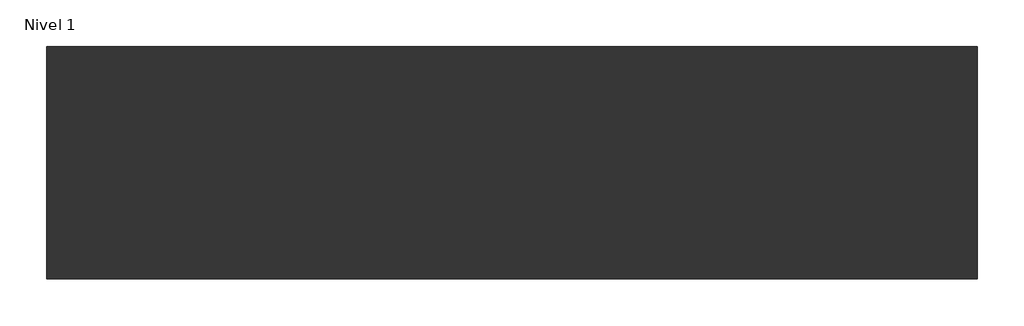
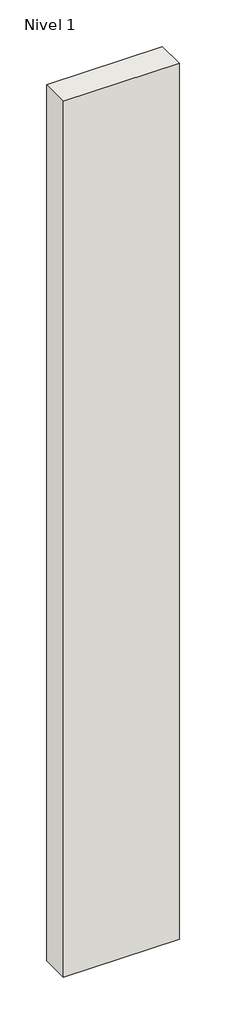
# One storey: 1 wall.
"""IFC4 building model written with IfcOpenShell, lengths in millimetres."""

import ifcopenshell
import ifcopenshell.guid

model = None  # the IFC model being written
_history = None  # IfcOwnerHistory: only IFC2X3 demands one
_inside = {}  # id of a spatial element -> (the spatial element, [elements in it])
_under = {}  # id of a project, library or spatial element -> (it, [spatial elements below it])
_declared = {}  # id of a project -> (the project, [libraries it declares])
_typed = {}  # id of a type object -> (the type object, [elements of that type])
_made_of = {}  # id of a material, layer set ... -> (it, [elements and type objects made of it])


def new_model(schema):
    """Start an empty IFC model of exactly this schema.

    Asked for "IFC4X3", IfcOpenShell would pick the latest addendum, in which some entities
    have other attributes; the version numbers below select the first issue.
    IFC2X3 requires an IfcOwnerHistory on every rooted entity: one is made here for all.
    """
    global model, _history
    if schema == "IFC4X3":
        model = ifcopenshell.file(schema_version=(4, 3, 0, 0))
    else:
        model = ifcopenshell.file(schema=schema)
    _inside.clear()
    _under.clear()
    _declared.clear()
    _typed.clear()
    _made_of.clear()
    _history = None
    if model.schema == "IFC2X3":
        org = make("IfcOrganization", Name="unknown")
        user = make(
            "IfcPersonAndOrganization",
            ThePerson=make("IfcPerson", FamilyName="unknown"),
            TheOrganization=org,
        )
        app = make(
            "IfcApplication",
            ApplicationDeveloper=org,
            Version="unknown",
            ApplicationFullName="unknown",
            ApplicationIdentifier="unknown",
        )
        _history = make(
            "IfcOwnerHistory",
            OwningUser=user,
            OwningApplication=app,
            ChangeAction="ADDED",
            CreationDate=0,
        )
    return model


def make(cls, **values):
    """One entity of the class cls with the attributes given. An attribute that is None is left unset."""
    return model.create_entity(
        cls, **{name: value for name, value in values.items() if value is not None}
    )


def rooted(cls, **values):
    """An entity with a GlobalId (a new one), such as an element, a storey or a relation."""
    return make(cls, GlobalId=ifcopenshell.guid.new(), OwnerHistory=_history, **values)


def si_unit(unit_type, name, prefix=None):
    """IfcSIUnit, for example si_unit("LENGTHUNIT", "METRE", prefix="MILLI")."""
    return make("IfcSIUnit", UnitType=unit_type, Prefix=prefix, Name=name)


def assignment(units):
    """IfcUnitAssignment: the units of a project."""
    return None if units is None else make("IfcUnitAssignment", Units=units)


def point(xyz):
    """IfcCartesianPoint."""
    return None if xyz is None else make("IfcCartesianPoint", Coordinates=xyz)


def direction(xyz):
    """IfcDirection."""
    return None if xyz is None else make("IfcDirection", DirectionRatios=xyz)


def frame(location, z_axis=None, x_axis=None):
    """IfcAxis2Placement3D, a coordinate frame: its origin and axes. An axis left out is left unset."""
    return make(
        "IfcAxis2Placement3D",
        Location=point(location),
        Axis=direction(z_axis),
        RefDirection=direction(x_axis),
    )


def origin():
    """The frame at (0, 0, 0) with its axes left unset."""
    return frame((0.0, 0.0, 0.0))


def origin_with_axes():
    """The frame at (0, 0, 0) with the z axis (0, 0, 1) and the x axis (1, 0, 0) written out."""
    return frame((0.0, 0.0, 0.0), z_axis=(0.0, 0.0, 1.0), x_axis=(1.0, 0.0, 0.0))


def place(relative_to, where):
    """IfcLocalPlacement: puts the frame where relative to a parent placement (None: the world)."""
    return make(
        "IfcLocalPlacement", PlacementRelTo=relative_to, RelativePlacement=where
    )


def context(
    kind, dimensions, precision=None, world=None, true_north=None, identifier=None
):
    """IfcGeometricRepresentationContext, for example the 3D "Model" context."""
    return make(
        "IfcGeometricRepresentationContext",
        ContextIdentifier=identifier,
        ContextType=kind,
        CoordinateSpaceDimension=dimensions,
        Precision=precision,
        WorldCoordinateSystem=world,
        TrueNorth=true_north,
    )


def project(units=None, contexts=None):
    """IfcProject with its units and contexts."""
    return rooted(
        "IfcProject",
        Name="project",
        RepresentationContexts=contexts,
        UnitsInContext=assignment(units),
    )


def spatial(cls, under=None, at=None, **own):
    """A site, building, storey or space (cls), placed at a placement, below another one or the project."""
    s = rooted(cls, ObjectPlacement=at, **own)
    if under is not None:
        _under.setdefault(under.id(), (under, []))[1].append(s)
    return s


def polyline(points):
    """IfcPolyline through the points."""
    return make("IfcPolyline", Points=[point(p) for p in points])


def outline(outer, holes=None, kind="AREA"):
    """IfcArbitraryClosedProfileDef: a profile drawn as a closed curve; with holes, ...WithVoids."""
    if holes is None:
        return make("IfcArbitraryClosedProfileDef", ProfileType=kind, OuterCurve=outer)
    return make(
        "IfcArbitraryProfileDefWithVoids",
        ProfileType=kind,
        OuterCurve=outer,
        InnerCurves=holes,
    )


def extrude(swept, where, along, depth):
    """IfcExtrudedAreaSolid: the profile swept, set in the frame where, extruded along a direction by depth."""
    return make(
        "IfcExtrudedAreaSolid",
        SweptArea=swept,
        Position=where,
        ExtrudedDirection=direction(along),
        Depth=depth,
    )


def shape(context_of_items, identifier, shape_type, items):
    """IfcShapeRepresentation: the items that make up one representation, for example the "Body"."""
    return make(
        "IfcShapeRepresentation",
        ContextOfItems=context_of_items,
        RepresentationIdentifier=identifier,
        RepresentationType=shape_type,
        Items=items,
    )


def made_of(thing, what):
    """Note that an element or type object is made of a material, layer set ...; save() writes the relation."""
    if what is not None:
        _made_of.setdefault(what.id(), (what, []))[1].append(thing)
    return thing


def element(
    cls,
    number,
    at=None,
    inside=None,
    cuts=None,
    type_object=None,
    material=None,
    context=None,
    identifier="Body",
    shape_type=None,
    held_by="IfcProductDefinitionShape",
    body=None,
    shapes=None,
    **own,
):
    """One element of the class cls, such as IfcWall. Its Tag is "e" and its number.

    at: its placement. inside: the storey or other place that contains it. cuts: it is an
    opening in that element (IfcRelVoidsElement). A single representation is given by context,
    identifier, shape_type and body (its items); several are given by shapes. held_by: the class
    of the entity that holds the representations. save() writes the other relations.
    """
    e = rooted(cls, Tag="e%d" % number, ObjectPlacement=at, **own)
    if body is not None:
        shapes = [shape(context, identifier, shape_type, body)]
    if shapes is not None:
        e.Representation = make(held_by, Representations=shapes)
    if inside is not None:
        _inside.setdefault(inside.id(), (inside, []))[1].append(e)
    if cuts is not None:
        rooted(
            "IfcRelVoidsElement", RelatingBuildingElement=cuts, RelatedOpeningElement=e
        )
    if type_object is not None:
        _typed.setdefault(type_object.id(), (type_object, []))[1].append(e)
    return made_of(e, material)


def aggregate(whole, parts):
    """IfcRelAggregates: a whole, such as a stair, and the parts it consists of."""
    return rooted("IfcRelAggregates", RelatingObject=whole, RelatedObjects=parts)


def save(model, path):
    """Write the relations noted so far, then the file.

    IfcRelAggregates (storeys below a building ...), IfcRelContainedInSpatialStructure (elements
    in a storey), IfcRelDefinesByType, IfcRelAssociatesMaterial and IfcRelDeclares: one each for
    every whole, place, type object, material and project.
    """
    for whole, parts in _under.values():
        aggregate(whole, parts)
    for where, things in _inside.values():
        rooted(
            "IfcRelContainedInSpatialStructure",
            RelatedElements=things,
            RelatingStructure=where,
        )
    for kind, things in _typed.values():
        rooted("IfcRelDefinesByType", RelatedObjects=things, RelatingType=kind)
    for what, things in _made_of.values():
        rooted("IfcRelAssociatesMaterial", RelatedObjects=things, RelatingMaterial=what)
    for by, libraries in _declared.values():
        rooted("IfcRelDeclares", RelatingContext=by, RelatedDefinitions=libraries)
    model.write(path)


model = new_model("IFC4")

# Units and contexts
model_context = context("Model", 3, world=origin())
ifc_project = project(units=[si_unit("LENGTHUNIT", "METRE", prefix="MILLI")], contexts=[model_context])

# Site, building, storey
site = spatial("IfcSite", under=ifc_project)
building = spatial("IfcBuilding", under=site)
storey = spatial("IfcBuildingStorey", under=building, Name="Nivel 1", Elevation=0.0)

# Wall
placement = place(None, origin())
element("IfcWall", 1, ObjectType="LC 1/2 pie + aisl. poliuretano + LH 4cm + enlucido", at=placement, inside=storey, context=model_context, shape_type="SweptSolid", body=[
    extrude(outline(polyline([(-3167.1347582, 3531.9505819), (-4167.1347582, 3531.9505819), (-4167.1347582, 3781.9505819), (-3167.1347582, 3781.9505819), (-3167.1347582, 3531.9505819)])), origin_with_axes(), (0.0, 0.0, 1.0), 8000.0),
])

save(model, "model.ifc")
